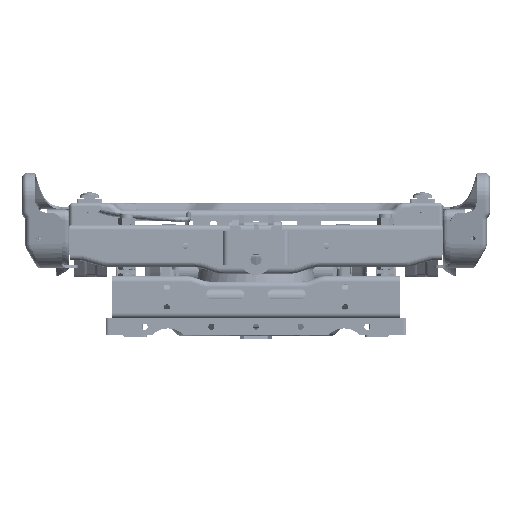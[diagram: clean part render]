
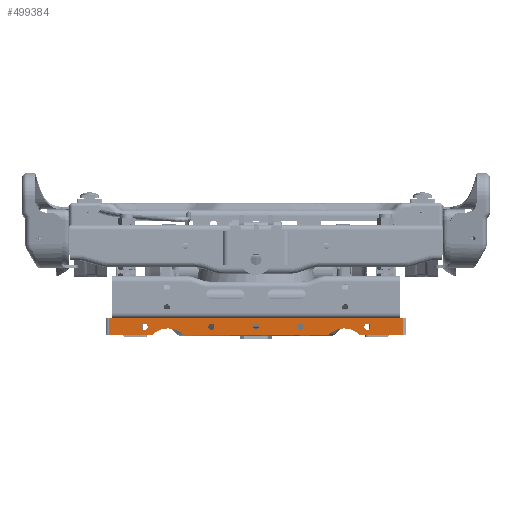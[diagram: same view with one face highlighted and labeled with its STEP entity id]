
A CAD part, left-side view. The second image highlights one B-rep face of the part: STEP entity #499384.
In plain terms, the highlighted planar face has unit normal (-1, 0, 0) as drawn and (1, 0, 0) by its records, which use the part's own axes.
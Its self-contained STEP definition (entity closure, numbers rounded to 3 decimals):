
#498923=VECTOR('Line Direction',#498922,1.) ;
#499147=VECTOR('Line Direction',#499146,1.) ;
#499248=VECTOR('Line Direction',#499247,1.) ;
#499264=VECTOR('Line Direction',#499263,1.) ;
#499271=VECTOR('Line Direction',#499270,1.) ;
#499276=VECTOR('Line Direction',#499275,1.) ;
#498922=DIRECTION('Vector Direction',(0.,-1.,0.)) ;
#499146=DIRECTION('Vector Direction',(0.,1.,0.)) ;
#499242=DIRECTION('Axis2P3D Direction',(1.,0.,0.)) ;
#499243=DIRECTION('Axis2P3D XDirection',(0.,1.,0.)) ;
#499247=DIRECTION('Vector Direction',(0.,-1.,0.)) ;
#499256=DIRECTION('Axis2P3D Direction',(1.,0.,0.)) ;
#499263=DIRECTION('Vector Direction',(0.,-1.,0.)) ;
#499270=DIRECTION('Vector Direction',(0.,0.,1.)) ;
#499275=DIRECTION('Vector Direction',(0.,0.,1.)) ;
#499280=DIRECTION('Axis2P3D Direction',(1.,0.,0.)) ;
#499295=DIRECTION('Axis2P3D Direction',(1.,0.,0.)) ;
#499304=DIRECTION('Axis2P3D Direction',(1.,0.,0.)) ;
#499313=DIRECTION('Axis2P3D Direction',(1.,0.,0.)) ;
#499322=DIRECTION('Axis2P3D Direction',(1.,0.,0.)) ;
#499331=DIRECTION('Axis2P3D Direction',(1.,0.,0.)) ;
#499340=DIRECTION('Axis2P3D Direction',(1.,0.,0.)) ;
#499349=DIRECTION('Axis2P3D Direction',(1.,0.,0.)) ;
#499358=DIRECTION('Axis2P3D Direction',(1.,0.,0.)) ;
#499367=DIRECTION('Axis2P3D Direction',(1.,0.,0.)) ;
#499376=DIRECTION('Axis2P3D Direction',(1.,0.,0.)) ;
#498921=CARTESIAN_POINT('Line Origine',(1107.052,-827.152,248.298)) ;
#498925=CARTESIAN_POINT('Vertex',(1107.052,-846.511,248.298)) ;
#498927=CARTESIAN_POINT('Vertex',(1107.052,-807.794,248.298)) ;
#499142=CARTESIAN_POINT('Vertex',(1107.052,-846.511,263.298)) ;
#499145=CARTESIAN_POINT('Line Origine',(1107.052,-714.511,263.298)) ;
#499149=CARTESIAN_POINT('Vertex',(1107.052,-582.511,263.299)) ;
#499241=CARTESIAN_POINT('Axis2P3D Location',(1107.051,0.,0.)) ;
#499246=CARTESIAN_POINT('Line Origine',(1107.052,-714.511,248.298)) ;
#499250=CARTESIAN_POINT('Vertex',(1107.052,-779.228,248.298)) ;
#499252=CARTESIAN_POINT('Vertex',(1107.052,-649.794,248.298)) ;
#499255=CARTESIAN_POINT('Axis2P3D Location',(1107.052,-635.511,234.298)) ;
#499259=CARTESIAN_POINT('Vertex',(1107.052,-621.228,248.298)) ;
#499262=CARTESIAN_POINT('Line Origine',(1107.052,-601.87,248.299)) ;
#499266=CARTESIAN_POINT('Vertex',(1107.052,-582.511,248.299)) ;
#499269=CARTESIAN_POINT('Line Origine',(1107.052,-582.511,255.799)) ;
#499274=CARTESIAN_POINT('Line Origine',(1107.052,-846.511,255.798)) ;
#499279=CARTESIAN_POINT('Axis2P3D Location',(1107.052,-793.511,234.298)) ;
#499294=CARTESIAN_POINT('Axis2P3D Location',(1107.052,-754.511,255.798)) ;
#499298=CARTESIAN_POINT('Vertex',(1107.052,-751.761,255.798)) ;
#499300=CARTESIAN_POINT('Vertex',(1107.052,-757.261,255.798)) ;
#499303=CARTESIAN_POINT('Axis2P3D Location',(1107.052,-754.511,255.798)) ;
#499312=CARTESIAN_POINT('Axis2P3D Location',(1107.052,-814.511,255.798)) ;
#499316=CARTESIAN_POINT('Vertex',(1107.052,-811.761,255.798)) ;
#499318=CARTESIAN_POINT('Vertex',(1107.052,-817.261,255.798)) ;
#499321=CARTESIAN_POINT('Axis2P3D Location',(1107.052,-814.511,255.798)) ;
#499330=CARTESIAN_POINT('Axis2P3D Location',(1107.052,-674.511,255.798)) ;
#499334=CARTESIAN_POINT('Vertex',(1107.052,-677.261,255.798)) ;
#499336=CARTESIAN_POINT('Vertex',(1107.052,-671.761,255.798)) ;
#499339=CARTESIAN_POINT('Axis2P3D Location',(1107.052,-674.511,255.798)) ;
#499348=CARTESIAN_POINT('Axis2P3D Location',(1107.052,-614.511,255.799)) ;
#499352=CARTESIAN_POINT('Vertex',(1107.052,-617.261,255.798)) ;
#499354=CARTESIAN_POINT('Vertex',(1107.052,-611.761,255.799)) ;
#499357=CARTESIAN_POINT('Axis2P3D Location',(1107.052,-614.511,255.799)) ;
#499366=CARTESIAN_POINT('Axis2P3D Location',(1107.052,-714.511,255.798)) ;
#499370=CARTESIAN_POINT('Vertex',(1107.052,-711.761,255.798)) ;
#499372=CARTESIAN_POINT('Vertex',(1107.052,-717.261,255.798)) ;
#499375=CARTESIAN_POINT('Axis2P3D Location',(1107.052,-714.511,255.798)) ;
#499244=AXIS2_PLACEMENT_3D('Plane Axis2P3D',#499241,#499242,#499243) ;
#499257=AXIS2_PLACEMENT_3D('Circle Axis2P3D',#499255,#499256,$) ;
#499281=AXIS2_PLACEMENT_3D('Circle Axis2P3D',#499279,#499280,$) ;
#499296=AXIS2_PLACEMENT_3D('Circle Axis2P3D',#499294,#499295,$) ;
#499305=AXIS2_PLACEMENT_3D('Circle Axis2P3D',#499303,#499304,$) ;
#499314=AXIS2_PLACEMENT_3D('Circle Axis2P3D',#499312,#499313,$) ;
#499323=AXIS2_PLACEMENT_3D('Circle Axis2P3D',#499321,#499322,$) ;
#499332=AXIS2_PLACEMENT_3D('Circle Axis2P3D',#499330,#499331,$) ;
#499341=AXIS2_PLACEMENT_3D('Circle Axis2P3D',#499339,#499340,$) ;
#499350=AXIS2_PLACEMENT_3D('Circle Axis2P3D',#499348,#499349,$) ;
#499359=AXIS2_PLACEMENT_3D('Circle Axis2P3D',#499357,#499358,$) ;
#499368=AXIS2_PLACEMENT_3D('Circle Axis2P3D',#499366,#499367,$) ;
#499377=AXIS2_PLACEMENT_3D('Circle Axis2P3D',#499375,#499376,$) ;
#499311=FACE_BOUND('',#499308,.T.) ;
#499329=FACE_BOUND('',#499326,.T.) ;
#499347=FACE_BOUND('',#499344,.T.) ;
#499365=FACE_BOUND('',#499362,.T.) ;
#499383=FACE_BOUND('',#499380,.T.) ;
#498929=EDGE_CURVE('',#498926,#498928,#498924,.F.) ;
#499151=EDGE_CURVE('',#499150,#499143,#499148,.F.) ;
#499254=EDGE_CURVE('',#499251,#499253,#499249,.F.) ;
#499261=EDGE_CURVE('',#499260,#499253,#499258,.T.) ;
#499268=EDGE_CURVE('',#499260,#499267,#499265,.F.) ;
#499273=EDGE_CURVE('',#499267,#499150,#499272,.T.) ;
#499278=EDGE_CURVE('',#499143,#498926,#499277,.F.) ;
#499283=EDGE_CURVE('',#499251,#498928,#499282,.T.) ;
#499302=EDGE_CURVE('',#499299,#499301,#499297,.T.) ;
#499307=EDGE_CURVE('',#499301,#499299,#499306,.T.) ;
#499320=EDGE_CURVE('',#499317,#499319,#499315,.T.) ;
#499325=EDGE_CURVE('',#499319,#499317,#499324,.T.) ;
#499338=EDGE_CURVE('',#499335,#499337,#499333,.T.) ;
#499343=EDGE_CURVE('',#499337,#499335,#499342,.T.) ;
#499356=EDGE_CURVE('',#499353,#499355,#499351,.T.) ;
#499361=EDGE_CURVE('',#499355,#499353,#499360,.T.) ;
#499374=EDGE_CURVE('',#499371,#499373,#499369,.T.) ;
#499379=EDGE_CURVE('',#499373,#499371,#499378,.T.) ;
#499245=PLANE('Plane',#499244) ;
#499285=ORIENTED_EDGE('',*,*,#499254,.T.) ;
#499286=ORIENTED_EDGE('',*,*,#499261,.F.) ;
#499287=ORIENTED_EDGE('',*,*,#499268,.T.) ;
#499288=ORIENTED_EDGE('',*,*,#499273,.T.) ;
#499289=ORIENTED_EDGE('',*,*,#499151,.T.) ;
#499290=ORIENTED_EDGE('',*,*,#499278,.T.) ;
#499291=ORIENTED_EDGE('',*,*,#498929,.T.) ;
#499292=ORIENTED_EDGE('',*,*,#499283,.F.) ;
#499309=ORIENTED_EDGE('',*,*,#499302,.F.) ;
#499310=ORIENTED_EDGE('',*,*,#499307,.F.) ;
#499327=ORIENTED_EDGE('',*,*,#499320,.F.) ;
#499328=ORIENTED_EDGE('',*,*,#499325,.F.) ;
#499345=ORIENTED_EDGE('',*,*,#499338,.F.) ;
#499346=ORIENTED_EDGE('',*,*,#499343,.F.) ;
#499363=ORIENTED_EDGE('',*,*,#499356,.F.) ;
#499364=ORIENTED_EDGE('',*,*,#499361,.F.) ;
#499381=ORIENTED_EDGE('',*,*,#499374,.F.) ;
#499382=ORIENTED_EDGE('',*,*,#499379,.F.) ;
#498924=LINE('Line',#498921,#498923) ;
#499148=LINE('Line',#499145,#499147) ;
#499249=LINE('Line',#499246,#499248) ;
#499265=LINE('Line',#499262,#499264) ;
#499272=LINE('Line',#499269,#499271) ;
#499277=LINE('Line',#499274,#499276) ;
#499384=ADVANCED_FACE('\X2\96F64EF651E04F554F53\X0\',(#499293,#499311,#499329,#499347,#499365,#499383),#499245,.T.) ;
#499258=CIRCLE('generated circle',#499257,20.) ;
#499282=CIRCLE('generated circle',#499281,20.) ;
#499297=CIRCLE('generated circle',#499296,2.75) ;
#499306=CIRCLE('generated circle',#499305,2.75) ;
#499315=CIRCLE('generated circle',#499314,2.75) ;
#499324=CIRCLE('generated circle',#499323,2.75) ;
#499333=CIRCLE('generated circle',#499332,2.75) ;
#499342=CIRCLE('generated circle',#499341,2.75) ;
#499351=CIRCLE('generated circle',#499350,2.75) ;
#499360=CIRCLE('generated circle',#499359,2.75) ;
#499369=CIRCLE('generated circle',#499368,2.75) ;
#499378=CIRCLE('generated circle',#499377,2.75) ;
#498926=VERTEX_POINT('',#498925) ;
#498928=VERTEX_POINT('',#498927) ;
#499143=VERTEX_POINT('',#499142) ;
#499150=VERTEX_POINT('',#499149) ;
#499251=VERTEX_POINT('',#499250) ;
#499253=VERTEX_POINT('',#499252) ;
#499260=VERTEX_POINT('',#499259) ;
#499267=VERTEX_POINT('',#499266) ;
#499299=VERTEX_POINT('',#499298) ;
#499301=VERTEX_POINT('',#499300) ;
#499317=VERTEX_POINT('',#499316) ;
#499319=VERTEX_POINT('',#499318) ;
#499335=VERTEX_POINT('',#499334) ;
#499337=VERTEX_POINT('',#499336) ;
#499353=VERTEX_POINT('',#499352) ;
#499355=VERTEX_POINT('',#499354) ;
#499371=VERTEX_POINT('',#499370) ;
#499373=VERTEX_POINT('',#499372) ;
#499284=EDGE_LOOP('',(#499285,#499286,#499287,#499288,#499289,#499290,#499291,#499292)) ;
#499308=EDGE_LOOP('',(#499309,#499310)) ;
#499326=EDGE_LOOP('',(#499327,#499328)) ;
#499344=EDGE_LOOP('',(#499345,#499346)) ;
#499362=EDGE_LOOP('',(#499363,#499364)) ;
#499380=EDGE_LOOP('',(#499381,#499382)) ;
#499293=FACE_OUTER_BOUND('',#499284,.T.) ;
